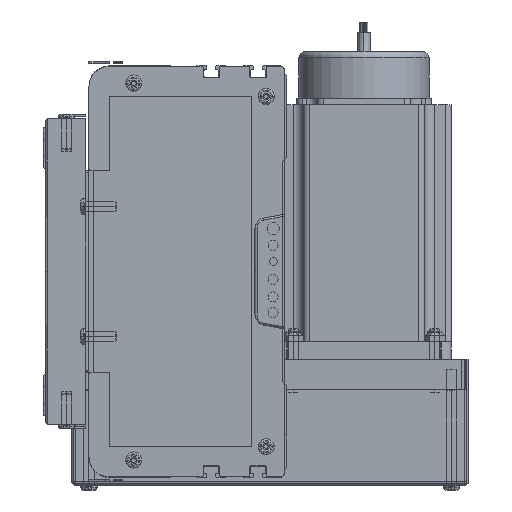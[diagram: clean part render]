
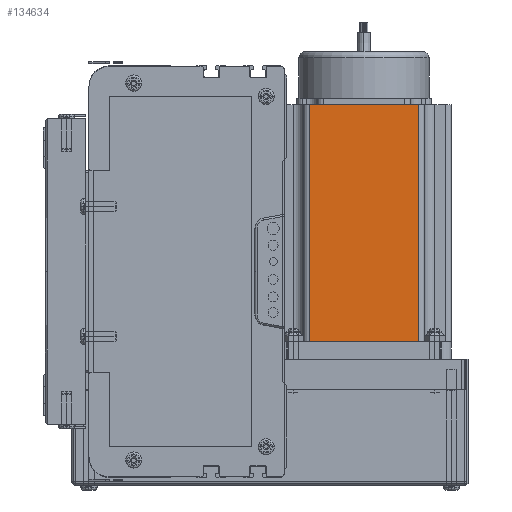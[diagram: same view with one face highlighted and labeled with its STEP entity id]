
A CAD part, left-side view. The second image highlights one B-rep face of the part: STEP entity #134634.
In plain terms, the highlighted planar face has unit normal (-1, 0, 0) as drawn and (0, -1, 0) by its records, which use the part's own axes.
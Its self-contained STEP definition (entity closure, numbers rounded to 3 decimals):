
#46180 = CARTESIAN_POINT ( 'NONE',  ( 16.16, 0., 0. ) ) ;
#46271 = CARTESIAN_POINT ( 'NONE',  ( 69.74, 0., 116.5 ) ) ;
#46310 = DIRECTION ( 'NONE',  ( 1., 0., 0. ) ) ;
#46312 = VECTOR ( 'NONE', #46310, 1000. ) ;
#46313 = CARTESIAN_POINT ( 'NONE',  ( 0., 0., 116.5 ) ) ;
#46340 = LINE ( 'NONE', #46313, #46312 ) ;
#63861 = CARTESIAN_POINT ( 'NONE',  ( 69.74, 0., 116.5 ) ) ;
#63862 = LINE ( 'NONE', #63861, #63959 ) ;
#63936 = CARTESIAN_POINT ( 'NONE',  ( 16.16, 0., 116.5 ) ) ;
#63957 = DIRECTION ( 'NONE',  ( 0., 0., 1. ) ) ;
#63959 = VECTOR ( 'NONE', #63957, 1000. ) ;
#95527 = AXIS2_PLACEMENT_3D ( 'NONE', #95607, #95570, #95569 ) ;
#95569 = DIRECTION ( 'NONE',  ( 0., 0., 1. ) ) ;
#95570 = DIRECTION ( 'NONE',  ( 0., 1., 0. ) ) ;
#95577 = PLANE ( 'NONE',  #95527 ) ;
#95604 = FACE_OUTER_BOUND ( 'NONE', #134881, .T. ) ;
#95607 = CARTESIAN_POINT ( 'NONE',  ( 0., 0., 116.5 ) ) ;
#95713 = CARTESIAN_POINT ( 'NONE',  ( 69.74, 0., 0. ) ) ;
#96391 = DIRECTION ( 'NONE',  ( 0., 0., -1. ) ) ;
#96392 = VECTOR ( 'NONE', #96391, 1000. ) ;
#96393 = CARTESIAN_POINT ( 'NONE',  ( 16.16, 0., 116.5 ) ) ;
#96394 = LINE ( 'NONE', #96393, #96392 ) ;
#96862 = DIRECTION ( 'NONE',  ( 1., 0., 0. ) ) ;
#96863 = VECTOR ( 'NONE', #96862, 1000. ) ;
#96877 = CARTESIAN_POINT ( 'NONE',  ( 0., 0., 0. ) ) ;
#96889 = LINE ( 'NONE', #96877, #96863 ) ;
#134634 = ADVANCED_FACE ( 'NONE', ( #95604 ), #95577, .F. ) ;
#134689 = VERTEX_POINT ( 'NONE', #95713 ) ;
#134812 = EDGE_CURVE ( 'NONE', #139017, #141247, #96394, .T. ) ;
#134814 = ORIENTED_EDGE ( 'NONE', *, *, #134812, .T. ) ;
#134881 = EDGE_LOOP ( 'NONE', ( #138978, #141286, #137368, #134814 ) ) ;
#134882 = EDGE_CURVE ( 'NONE', #141247, #134689, #96889, .T. ) ;
#137368 = ORIENTED_EDGE ( 'NONE', *, *, #141288, .F. ) ;
#138978 = ORIENTED_EDGE ( 'NONE', *, *, #134882, .T. ) ;
#138998 = EDGE_CURVE ( 'NONE', #134689, #141260, #63862, .T. ) ;
#139017 = VERTEX_POINT ( 'NONE', #63936 ) ;
#141247 = VERTEX_POINT ( 'NONE', #46180 ) ;
#141260 = VERTEX_POINT ( 'NONE', #46271 ) ;
#141286 = ORIENTED_EDGE ( 'NONE', *, *, #138998, .T. ) ;
#141288 = EDGE_CURVE ( 'NONE', #139017, #141260, #46340, .T. ) ;
